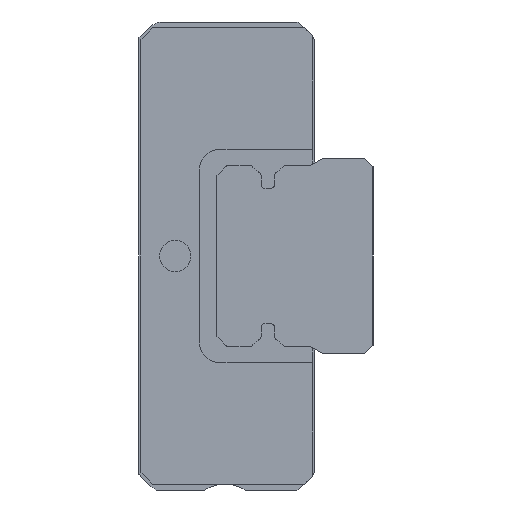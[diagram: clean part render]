
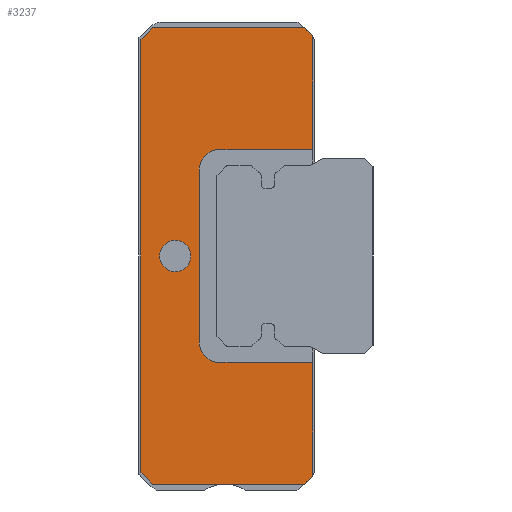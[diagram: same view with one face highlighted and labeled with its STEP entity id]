
A CAD part, left-side view. The second image highlights one B-rep face of the part: STEP entity #3237.
In plain terms, the highlighted planar face has unit normal (-1, 0, 0).
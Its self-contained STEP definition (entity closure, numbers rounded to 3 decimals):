
#215=CIRCLE('',#3553,0.5);
#216=CIRCLE('',#3556,0.5);
#217=CIRCLE('',#3560,0.4);
#927=ORIENTED_EDGE('',*,*,#1567,.F.);
#928=ORIENTED_EDGE('',*,*,#1568,.F.);
#929=ORIENTED_EDGE('',*,*,#1358,.T.);
#930=ORIENTED_EDGE('',*,*,#1356,.T.);
#931=ORIENTED_EDGE('',*,*,#1406,.T.);
#932=ORIENTED_EDGE('',*,*,#1565,.T.);
#933=ORIENTED_EDGE('',*,*,#1563,.T.);
#934=ORIENTED_EDGE('',*,*,#1561,.T.);
#935=ORIENTED_EDGE('',*,*,#1559,.T.);
#936=ORIENTED_EDGE('',*,*,#1566,.T.);
#937=ORIENTED_EDGE('',*,*,#1401,.T.);
#938=ORIENTED_EDGE('',*,*,#1302,.T.);
#939=ORIENTED_EDGE('',*,*,#1299,.T.);
#940=ORIENTED_EDGE('',*,*,#1569,.F.);
#941=ORIENTED_EDGE('',*,*,#1570,.F.);
#1299=EDGE_CURVE('',#1720,#1723,#2028,.T.);
#1302=EDGE_CURVE('',#1725,#1720,#2031,.T.);
#1356=EDGE_CURVE('',#1766,#1772,#2085,.T.);
#1358=EDGE_CURVE('',#1774,#1766,#2087,.T.);
#1401=EDGE_CURVE('',#1801,#1725,#2126,.T.);
#1406=EDGE_CURVE('',#1772,#1804,#2131,.T.);
#1559=EDGE_CURVE('',#1919,#1918,#215,.T.);
#1561=EDGE_CURVE('',#1920,#1919,#2222,.T.);
#1563=EDGE_CURVE('',#1921,#1920,#216,.T.);
#1565=EDGE_CURVE('',#1804,#1921,#2225,.T.);
#1566=EDGE_CURVE('',#1918,#1801,#2226,.T.);
#1567=EDGE_CURVE('',#1922,#1922,#217,.F.);
#1568=EDGE_CURVE('',#1774,#1923,#2227,.T.);
#1569=EDGE_CURVE('',#1924,#1723,#2228,.T.);
#1570=EDGE_CURVE('',#1923,#1924,#2229,.T.);
#1720=VERTEX_POINT('',#4870);
#1723=VERTEX_POINT('',#4875);
#1725=VERTEX_POINT('',#4882);
#1766=VERTEX_POINT('',#4981);
#1772=VERTEX_POINT('',#4992);
#1774=VERTEX_POINT('',#4998);
#1801=VERTEX_POINT('',#5080);
#1804=VERTEX_POINT('',#5088);
#1918=VERTEX_POINT('',#5390);
#1919=VERTEX_POINT('',#5392);
#1920=VERTEX_POINT('',#5396);
#1921=VERTEX_POINT('',#5400);
#1922=VERTEX_POINT('',#5408);
#1923=VERTEX_POINT('',#5410);
#1924=VERTEX_POINT('',#5412);
#2028=LINE('',#4876,#2365);
#2031=LINE('',#4881,#2368);
#2085=LINE('',#4993,#2422);
#2087=LINE('',#4997,#2424);
#2126=LINE('',#5079,#2463);
#2131=LINE('',#5089,#2468);
#2222=LINE('',#5395,#2559);
#2225=LINE('',#5403,#2562);
#2226=LINE('',#5405,#2563);
#2227=LINE('',#5409,#2564);
#2228=LINE('',#5411,#2565);
#2229=LINE('',#5413,#2566);
#2365=VECTOR('',#3932,1000.);
#2368=VECTOR('',#3937,1000.);
#2422=VECTOR('',#4011,1000.);
#2424=VECTOR('',#4015,1000.);
#2463=VECTOR('',#4086,1000.);
#2468=VECTOR('',#4093,1000.);
#2559=VECTOR('',#4384,1000.);
#2562=VECTOR('',#4393,1000.);
#2563=VECTOR('',#4396,1000.);
#2564=VECTOR('',#4401,1000.);
#2565=VECTOR('',#4402,1000.);
#2566=VECTOR('',#4403,1000.);
#2745=EDGE_LOOP('',(#927));
#2746=EDGE_LOOP('',(#928,#929,#930,#931,#932,#933,#934,#935,#936,#937,#938,
#939,#940,#941));
#2944=FACE_BOUND('',#2745,.T.);
#2945=FACE_BOUND('',#2746,.T.);
#3091=PLANE('',#3559);
#3237=ADVANCED_FACE('',(#2944,#2945),#3091,.F.);
#3553=AXIS2_PLACEMENT_3D('',#5391,#4379,#4380);
#3556=AXIS2_PLACEMENT_3D('',#5399,#4388,#4389);
#3559=AXIS2_PLACEMENT_3D('',#5406,#4397,#4398);
#3560=AXIS2_PLACEMENT_3D('',#5407,#4399,#4400);
#3932=DIRECTION('',(0.,1.,0.));
#3937=DIRECTION('',(0.,0.707,0.707));
#4011=DIRECTION('',(0.,-0.707,0.707));
#4015=DIRECTION('',(0.,-1.,0.));
#4086=DIRECTION('',(0.,0.,1.));
#4093=DIRECTION('',(0.,0.,1.));
#4379=DIRECTION('',(1.,0.,0.));
#4380=DIRECTION('',(0.,0.,-1.));
#4384=DIRECTION('',(0.,0.,1.));
#4388=DIRECTION('',(1.,0.,0.));
#4389=DIRECTION('',(0.,0.,-1.));
#4393=DIRECTION('',(0.,1.,0.));
#4396=DIRECTION('',(0.,-1.,0.));
#4397=DIRECTION('',(1.,0.,0.));
#4398=DIRECTION('',(0.,0.,-1.));
#4399=DIRECTION('',(1.,0.,0.));
#4400=DIRECTION('',(0.,0.,-1.));
#4401=DIRECTION('',(0.,0.707,0.707));
#4402=DIRECTION('',(0.,-0.707,0.707));
#4403=DIRECTION('',(0.,0.,1.));
#4870=CARTESIAN_POINT('',(-9.55,0.25,5.85));
#4875=CARTESIAN_POINT('',(-9.55,4.15,5.85));
#4876=CARTESIAN_POINT('',(-9.55,4.1,5.85));
#4881=CARTESIAN_POINT('',(-9.55,0.25,5.85));
#4882=CARTESIAN_POINT('',(-9.55,0.05,5.65));
#4981=CARTESIAN_POINT('',(-9.55,0.25,-5.85));
#4992=CARTESIAN_POINT('',(-9.55,0.05,-5.65));
#4993=CARTESIAN_POINT('',(-9.55,0.05,-5.65));
#4997=CARTESIAN_POINT('',(-9.55,0.25,-5.85));
#4998=CARTESIAN_POINT('',(-9.55,4.15,-5.85));
#5079=CARTESIAN_POINT('',(-9.55,0.05,5.65));
#5080=CARTESIAN_POINT('',(-9.55,0.05,2.73));
#5088=CARTESIAN_POINT('',(-9.55,0.05,-2.73));
#5089=CARTESIAN_POINT('',(-9.55,0.05,5.65));
#5390=CARTESIAN_POINT('',(-9.55,2.45,2.73));
#5391=CARTESIAN_POINT('',(-9.55,2.45,2.23));
#5392=CARTESIAN_POINT('',(-9.55,2.95,2.23));
#5395=CARTESIAN_POINT('',(-9.55,2.95,-2.23));
#5396=CARTESIAN_POINT('',(-9.55,2.95,-2.23));
#5399=CARTESIAN_POINT('',(-9.55,2.45,-2.23));
#5400=CARTESIAN_POINT('',(-9.55,2.45,-2.73));
#5403=CARTESIAN_POINT('',(-9.55,0.05,-2.73));
#5405=CARTESIAN_POINT('',(-9.55,2.45,2.73));
#5406=CARTESIAN_POINT('',(-9.55,0.,0.));
#5407=CARTESIAN_POINT('',(-9.55,3.57,0.));
#5408=CARTESIAN_POINT('',(-9.55,3.57,-0.4));
#5409=CARTESIAN_POINT('',(-9.55,4.15,-5.85));
#5410=CARTESIAN_POINT('',(-9.55,4.45,-5.55));
#5411=CARTESIAN_POINT('',(-9.55,4.45,5.55));
#5412=CARTESIAN_POINT('',(-9.55,4.45,5.55));
#5413=CARTESIAN_POINT('',(-9.55,4.45,-5.55));
